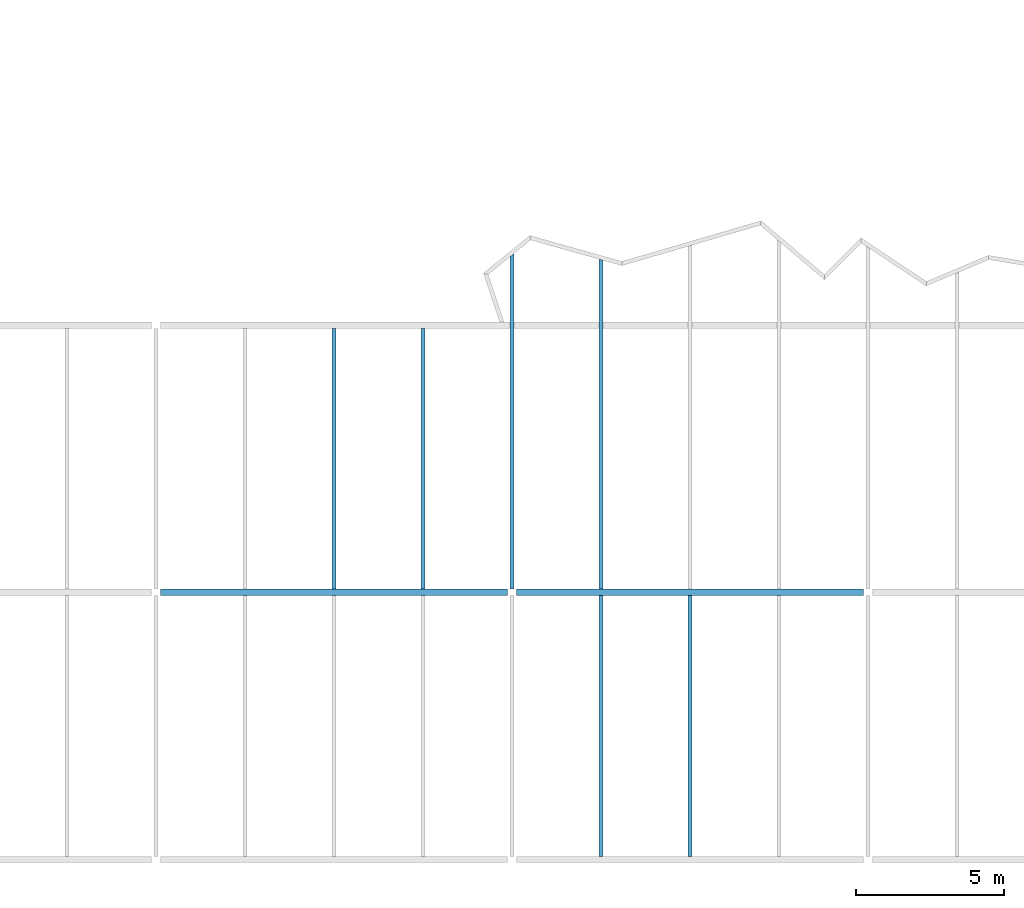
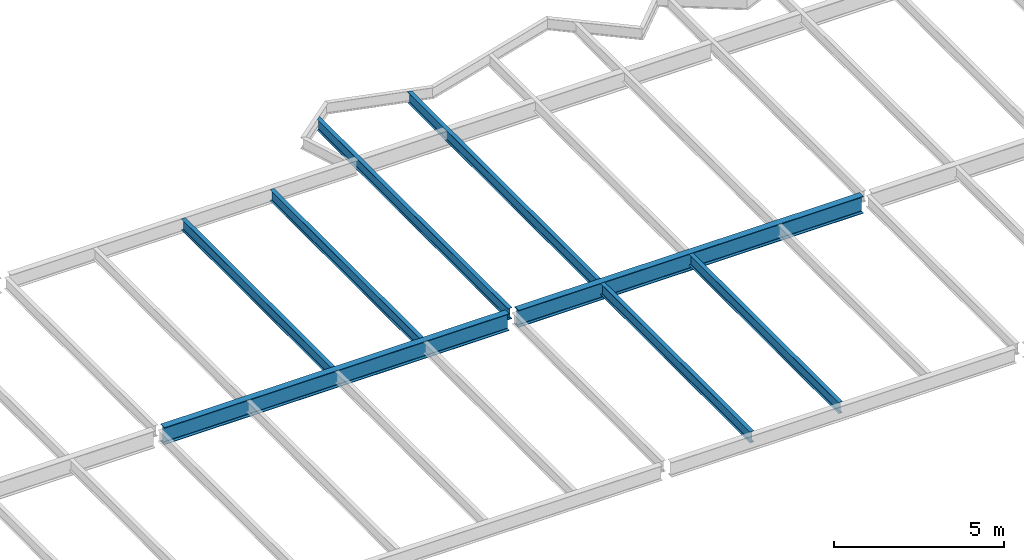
# One storey, part 18 of 23: 8 beams.
"""IFC2X3 building model written with IfcOpenShell, lengths in millimetres."""

import ifcopenshell
import ifcopenshell.guid

model = None  # the IFC model being written
_history = None  # IfcOwnerHistory: only IFC2X3 demands one
_inside = {}  # id of a spatial element -> (the spatial element, [elements in it])
_under = {}  # id of a project, library or spatial element -> (it, [spatial elements below it])
_declared = {}  # id of a project -> (the project, [libraries it declares])
_typed = {}  # id of a type object -> (the type object, [elements of that type])
_made_of = {}  # id of a material, layer set ... -> (it, [elements and type objects made of it])


def new_model(schema):
    """Start an empty IFC model of exactly this schema.

    Asked for "IFC4X3", IfcOpenShell would pick the latest addendum, in which some entities
    have other attributes; the version numbers below select the first issue.
    IFC2X3 requires an IfcOwnerHistory on every rooted entity: one is made here for all.
    """
    global model, _history
    if schema == "IFC4X3":
        model = ifcopenshell.file(schema_version=(4, 3, 0, 0))
    else:
        model = ifcopenshell.file(schema=schema)
    _inside.clear()
    _under.clear()
    _declared.clear()
    _typed.clear()
    _made_of.clear()
    _history = None
    if model.schema == "IFC2X3":
        org = make("IfcOrganization", Name="unknown")
        user = make(
            "IfcPersonAndOrganization",
            ThePerson=make("IfcPerson", FamilyName="unknown"),
            TheOrganization=org,
        )
        app = make(
            "IfcApplication",
            ApplicationDeveloper=org,
            Version="unknown",
            ApplicationFullName="unknown",
            ApplicationIdentifier="unknown",
        )
        _history = make(
            "IfcOwnerHistory",
            OwningUser=user,
            OwningApplication=app,
            ChangeAction="ADDED",
            CreationDate=0,
        )
    return model


def make(cls, **values):
    """One entity of the class cls with the attributes given. An attribute that is None is left unset."""
    return model.create_entity(
        cls, **{name: value for name, value in values.items() if value is not None}
    )


def rooted(cls, **values):
    """An entity with a GlobalId (a new one), such as an element, a storey or a relation."""
    return make(cls, GlobalId=ifcopenshell.guid.new(), OwnerHistory=_history, **values)


def si_unit(unit_type, name, prefix=None):
    """IfcSIUnit, for example si_unit("LENGTHUNIT", "METRE", prefix="MILLI")."""
    return make("IfcSIUnit", UnitType=unit_type, Prefix=prefix, Name=name)


def assignment(units):
    """IfcUnitAssignment: the units of a project."""
    return None if units is None else make("IfcUnitAssignment", Units=units)


def point(xyz):
    """IfcCartesianPoint."""
    return None if xyz is None else make("IfcCartesianPoint", Coordinates=xyz)


def direction(xyz):
    """IfcDirection."""
    return None if xyz is None else make("IfcDirection", DirectionRatios=xyz)


def frame(location, z_axis=None, x_axis=None):
    """IfcAxis2Placement3D, a coordinate frame: its origin and axes. An axis left out is left unset."""
    return make(
        "IfcAxis2Placement3D",
        Location=point(location),
        Axis=direction(z_axis),
        RefDirection=direction(x_axis),
    )


def origin():
    """The frame at (0, 0, 0) with its axes left unset."""
    return frame((0.0, 0.0, 0.0))


def place(relative_to, where):
    """IfcLocalPlacement: puts the frame where relative to a parent placement (None: the world)."""
    return make(
        "IfcLocalPlacement", PlacementRelTo=relative_to, RelativePlacement=where
    )


def context(
    kind, dimensions, precision=None, world=None, true_north=None, identifier=None
):
    """IfcGeometricRepresentationContext, for example the 3D "Model" context."""
    return make(
        "IfcGeometricRepresentationContext",
        ContextIdentifier=identifier,
        ContextType=kind,
        CoordinateSpaceDimension=dimensions,
        Precision=precision,
        WorldCoordinateSystem=world,
        TrueNorth=true_north,
    )


def project(units=None, contexts=None):
    """IfcProject with its units and contexts."""
    return rooted(
        "IfcProject",
        Name="project",
        RepresentationContexts=contexts,
        UnitsInContext=assignment(units),
    )


def spatial(cls, under=None, at=None, **own):
    """A site, building, storey or space (cls), placed at a placement, below another one or the project."""
    s = rooted(cls, ObjectPlacement=at, **own)
    if under is not None:
        _under.setdefault(under.id(), (under, []))[1].append(s)
    return s


def faces_of(points, faces, orient=None, outer=None):
    """IfcFace entities. A face is a list of loops; a loop is a list of indices into points, from 0.

    orient and outer hold one flag for each loop. By default every Orientation is true, the
    first loop of a face is its IfcFaceOuterBound and the others are IfcFaceBound.
    """
    made = []
    for i, loops in enumerate(faces):
        bounds = []
        for j, loop in enumerate(loops):
            is_outer = j == 0 if outer is None else outer[i][j]
            bounds.append(
                make(
                    "IfcFaceOuterBound" if is_outer else "IfcFaceBound",
                    Bound=make("IfcPolyLoop", Polygon=[points[k] for k in loop]),
                    Orientation=True if orient is None else orient[i][j],
                )
            )
        made.append(make("IfcFace", Bounds=bounds))
    return made


def faceted_brep(points, faces, orient=None, outer=None, voids=None):
    """IfcFacetedBrep: a solid bounded by flat faces; with voids (closed shells), ...WithVoids."""
    shared = [point(p) for p in points]
    hull = make("IfcClosedShell", CfsFaces=faces_of(shared, faces, orient, outer))
    if voids is None:
        return make("IfcFacetedBrep", Outer=hull)
    return make(
        "IfcFacetedBrepWithVoids",
        Outer=hull,
        Voids=[
            make(cls, CfsFaces=faces_of(shared, fs, o, b)) for cls, fs, o, b in voids
        ],
    )


def shape(context_of_items, identifier, shape_type, items):
    """IfcShapeRepresentation: the items that make up one representation, for example the "Body"."""
    return make(
        "IfcShapeRepresentation",
        ContextOfItems=context_of_items,
        RepresentationIdentifier=identifier,
        RepresentationType=shape_type,
        Items=items,
    )


def material(Name=None, Category=None):
    """IfcMaterial."""
    return make("IfcMaterial", Name=Name, Category=Category)


def made_of(thing, what):
    """Note that an element or type object is made of a material, layer set ...; save() writes the relation."""
    if what is not None:
        _made_of.setdefault(what.id(), (what, []))[1].append(thing)
    return thing


def element(
    cls,
    number,
    at=None,
    inside=None,
    cuts=None,
    type_object=None,
    material=None,
    context=None,
    identifier="Body",
    shape_type=None,
    held_by="IfcProductDefinitionShape",
    body=None,
    shapes=None,
    **own,
):
    """One element of the class cls, such as IfcWall. Its Tag is "e" and its number.

    at: its placement. inside: the storey or other place that contains it. cuts: it is an
    opening in that element (IfcRelVoidsElement). A single representation is given by context,
    identifier, shape_type and body (its items); several are given by shapes. held_by: the class
    of the entity that holds the representations. save() writes the other relations.
    """
    e = rooted(cls, Tag="e%d" % number, ObjectPlacement=at, **own)
    if body is not None:
        shapes = [shape(context, identifier, shape_type, body)]
    if shapes is not None:
        e.Representation = make(held_by, Representations=shapes)
    if inside is not None:
        _inside.setdefault(inside.id(), (inside, []))[1].append(e)
    if cuts is not None:
        rooted(
            "IfcRelVoidsElement", RelatingBuildingElement=cuts, RelatedOpeningElement=e
        )
    if type_object is not None:
        _typed.setdefault(type_object.id(), (type_object, []))[1].append(e)
    return made_of(e, material)


def aggregate(whole, parts):
    """IfcRelAggregates: a whole, such as a stair, and the parts it consists of."""
    return rooted("IfcRelAggregates", RelatingObject=whole, RelatedObjects=parts)


def save(model, path):
    """Write the relations noted so far, then the file.

    IfcRelAggregates (storeys below a building ...), IfcRelContainedInSpatialStructure (elements
    in a storey), IfcRelDefinesByType, IfcRelAssociatesMaterial and IfcRelDeclares: one each for
    every whole, place, type object, material and project.
    """
    for whole, parts in _under.values():
        aggregate(whole, parts)
    for where, things in _inside.values():
        rooted(
            "IfcRelContainedInSpatialStructure",
            RelatedElements=things,
            RelatingStructure=where,
        )
    for kind, things in _typed.values():
        rooted("IfcRelDefinesByType", RelatedObjects=things, RelatingType=kind)
    for what, things in _made_of.values():
        rooted("IfcRelAssociatesMaterial", RelatedObjects=things, RelatingMaterial=what)
    for by, libraries in _declared.values():
        rooted("IfcRelDeclares", RelatingContext=by, RelatedDefinitions=libraries)
    model.write(path)


model = new_model("IFC2X3")

# Units and contexts
context_of_model = context(None, 3, precision=1e-05, world=origin())
ifc_project = project(units=[si_unit("LENGTHUNIT", "METRE", prefix="MILLI")], contexts=[context_of_model])

# Building, storey
building = spatial("IfcBuilding", under=ifc_project, Name="Building", CompositionType="ELEMENT")
storey = spatial("IfcBuildingStorey", under=building, Name="FL5-FRM", CompositionType="ELEMENT")

# Beams
ifc_material_1 = material(Name="A992")
beam_1_placement = place(None, origin())
element("IfcBeam", 1, at=beam_1_placement, inside=storey, material=ifc_material_1, Name="B826", context=context_of_model, shape_type="Brep", body=[
    faceted_brep([(53930.0, 26895.5, 17474.0), (54070.0, 26895.5, 17474.0), (54070.0, 18114.5, 17474.0), (53930.0, 18114.5, 17474.0), (54070.0, 26895.5, 17482.8), (54070.0, 18114.5, 17482.8), (54013.4, 26895.5, 17482.8), (54013.4, 18114.5, 17482.8), (54010.8, 26895.5, 17483.1), (54010.8, 18114.5, 17483.1), (54008.3, 26895.5, 17484.2), (54008.3, 18114.5, 17484.2), (54006.2, 26895.5, 17485.8), (54006.2, 18114.5, 17485.8), (54004.6, 26895.5, 17487.9), (54004.6, 18114.5, 17487.9), (54003.5, 26895.5, 17490.4), (54003.5, 18114.5, 17490.4), (54003.2, 26895.5, 17493.0), (54003.2, 18114.5, 17493.0), (54003.2, 26895.5, 17854.0), (54003.2, 18114.5, 17854.0), (54003.5, 26895.5, 17856.6), (54003.5, 18114.5, 17856.6), (54004.6, 26895.5, 17859.1), (54004.6, 18114.5, 17859.1), (54006.2, 26895.5, 17861.2), (54006.2, 18114.5, 17861.2), (54008.3, 26895.5, 17862.8), (54008.3, 18114.5, 17862.8), (54010.8, 26895.5, 17863.9), (54010.8, 18114.5, 17863.9), (54013.4, 26895.5, 17864.2), (54013.4, 18114.5, 17864.2), (54070.0, 26895.5, 17864.2), (54070.0, 18114.5, 17864.2), (54070.0, 26895.5, 17873.0), (54070.0, 18114.5, 17873.0), (53930.0, 26895.5, 17873.0), (53930.0, 18114.5, 17873.0), (53930.0, 26895.5, 17864.2), (53930.0, 18114.5, 17864.2), (53986.6, 26895.5, 17864.2), (53986.6, 18114.5, 17864.2), (53989.2, 26895.5, 17863.9), (53989.2, 18114.5, 17863.9), (53991.7, 26895.5, 17862.8), (53991.7, 18114.5, 17862.8), (53993.8, 26895.5, 17861.2), (53993.8, 18114.5, 17861.2), (53995.4, 26895.5, 17859.1), (53995.4, 18114.5, 17859.1), (53996.5, 26895.5, 17856.6), (53996.5, 18114.5, 17856.6), (53996.8, 26895.5, 17854.0), (53996.8, 18114.5, 17854.0), (53996.8, 26895.5, 17493.0), (53996.8, 18114.5, 17493.0), (53996.5, 26895.5, 17490.4), (53996.5, 18114.5, 17490.4), (53995.4, 26895.5, 17487.9), (53995.4, 18114.5, 17487.9), (53993.8, 26895.5, 17485.8), (53993.8, 18114.5, 17485.8), (53991.7, 26895.5, 17484.2), (53991.7, 18114.5, 17484.2), (53989.2, 26895.5, 17483.1), (53989.2, 18114.5, 17483.1), (53986.6, 26895.5, 17482.8), (53986.6, 18114.5, 17482.8), (53930.0, 26895.5, 17482.8), (53930.0, 18114.5, 17482.8)], [[[0, 1, 2, 3]], [[1, 4, 5, 2]], [[4, 6, 7, 5]], [[6, 8, 9, 7]], [[8, 10, 11, 9]], [[10, 12, 13, 11]], [[12, 14, 15, 13]], [[14, 16, 17, 15]], [[16, 18, 19, 17]], [[18, 20, 21, 19]], [[20, 22, 23, 21]], [[22, 24, 25, 23]], [[24, 26, 27, 25]], [[26, 28, 29, 27]], [[28, 30, 31, 29]], [[30, 32, 33, 31]], [[32, 34, 35, 33]], [[34, 36, 37, 35]], [[36, 38, 39, 37]], [[38, 40, 41, 39]], [[40, 42, 43, 41]], [[42, 44, 45, 43]], [[44, 46, 47, 45]], [[46, 48, 49, 47]], [[48, 50, 51, 49]], [[50, 52, 53, 51]], [[52, 54, 55, 53]], [[54, 56, 57, 55]], [[56, 58, 59, 57]], [[58, 60, 61, 59]], [[60, 62, 63, 61]], [[62, 64, 65, 63]], [[64, 66, 67, 65]], [[66, 68, 69, 67]], [[68, 70, 71, 69]], [[70, 0, 3, 71]], [[0, 70, 68, 66, 64, 62, 60, 58, 56, 54, 52, 50, 48, 46, 44, 42, 40, 38, 36, 34, 32, 30, 28, 26, 24, 22, 20, 18, 16, 14, 12, 10, 8, 6, 4, 1]], [[3, 2, 5, 7, 9, 11, 13, 15, 17, 19, 21, 23, 25, 27, 29, 31, 33, 35, 37, 39, 41, 43, 45, 47, 49, 51, 53, 55, 57, 59, 61, 63, 65, 67, 69, 71]]]),
])
ifc_material_2 = material(Name="A992")
beam_2_placement = place(None, origin())
element("IfcBeam", 2, at=beam_2_placement, inside=storey, material=ifc_material_2, Name="B827", context=context_of_model, shape_type="Brep", body=[
    faceted_brep([(56930.0, 26895.5, 17474.0), (57070.0, 26895.5, 17474.0), (57070.0, 18114.5, 17474.0), (56930.0, 18114.5, 17474.0), (57070.0, 26895.5, 17482.8), (57070.0, 18114.5, 17482.8), (57013.4, 26895.5, 17482.8), (57013.4, 18114.5, 17482.8), (57010.8, 26895.5, 17483.1), (57010.8, 18114.5, 17483.1), (57008.3, 26895.5, 17484.2), (57008.3, 18114.5, 17484.2), (57006.2, 26895.5, 17485.8), (57006.2, 18114.5, 17485.8), (57004.6, 26895.5, 17487.9), (57004.6, 18114.5, 17487.9), (57003.5, 26895.5, 17490.4), (57003.5, 18114.5, 17490.4), (57003.2, 26895.5, 17493.0), (57003.2, 18114.5, 17493.0), (57003.2, 26895.5, 17854.0), (57003.2, 18114.5, 17854.0), (57003.5, 26895.5, 17856.6), (57003.5, 18114.5, 17856.6), (57004.6, 26895.5, 17859.1), (57004.6, 18114.5, 17859.1), (57006.2, 26895.5, 17861.2), (57006.2, 18114.5, 17861.2), (57008.3, 26895.5, 17862.8), (57008.3, 18114.5, 17862.8), (57010.8, 26895.5, 17863.9), (57010.8, 18114.5, 17863.9), (57013.4, 26895.5, 17864.2), (57013.4, 18114.5, 17864.2), (57070.0, 26895.5, 17864.2), (57070.0, 18114.5, 17864.2), (57070.0, 26895.5, 17873.0), (57070.0, 18114.5, 17873.0), (56930.0, 26895.5, 17873.0), (56930.0, 18114.5, 17873.0), (56930.0, 26895.5, 17864.2), (56930.0, 18114.5, 17864.2), (56986.6, 26895.5, 17864.2), (56986.6, 18114.5, 17864.2), (56989.2, 26895.5, 17863.9), (56989.2, 18114.5, 17863.9), (56991.7, 26895.5, 17862.8), (56991.7, 18114.5, 17862.8), (56993.8, 26895.5, 17861.2), (56993.8, 18114.5, 17861.2), (56995.4, 26895.5, 17859.1), (56995.4, 18114.5, 17859.1), (56996.5, 26895.5, 17856.6), (56996.5, 18114.5, 17856.6), (56996.8, 26895.5, 17854.0), (56996.8, 18114.5, 17854.0), (56996.8, 26895.5, 17493.0), (56996.8, 18114.5, 17493.0), (56996.5, 26895.5, 17490.4), (56996.5, 18114.5, 17490.4), (56995.4, 26895.5, 17487.9), (56995.4, 18114.5, 17487.9), (56993.8, 26895.5, 17485.8), (56993.8, 18114.5, 17485.8), (56991.7, 26895.5, 17484.2), (56991.7, 18114.5, 17484.2), (56989.2, 26895.5, 17483.1), (56989.2, 18114.5, 17483.1), (56986.6, 26895.5, 17482.8), (56986.6, 18114.5, 17482.8), (56930.0, 26895.5, 17482.8), (56930.0, 18114.5, 17482.8)], [[[0, 1, 2, 3]], [[1, 4, 5, 2]], [[4, 6, 7, 5]], [[6, 8, 9, 7]], [[8, 10, 11, 9]], [[10, 12, 13, 11]], [[12, 14, 15, 13]], [[14, 16, 17, 15]], [[16, 18, 19, 17]], [[18, 20, 21, 19]], [[20, 22, 23, 21]], [[22, 24, 25, 23]], [[24, 26, 27, 25]], [[26, 28, 29, 27]], [[28, 30, 31, 29]], [[30, 32, 33, 31]], [[32, 34, 35, 33]], [[34, 36, 37, 35]], [[36, 38, 39, 37]], [[38, 40, 41, 39]], [[40, 42, 43, 41]], [[42, 44, 45, 43]], [[44, 46, 47, 45]], [[46, 48, 49, 47]], [[48, 50, 51, 49]], [[50, 52, 53, 51]], [[52, 54, 55, 53]], [[54, 56, 57, 55]], [[56, 58, 59, 57]], [[58, 60, 61, 59]], [[60, 62, 63, 61]], [[62, 64, 65, 63]], [[64, 66, 67, 65]], [[66, 68, 69, 67]], [[68, 70, 71, 69]], [[70, 0, 3, 71]], [[0, 70, 68, 66, 64, 62, 60, 58, 56, 54, 52, 50, 48, 46, 44, 42, 40, 38, 36, 34, 32, 30, 28, 26, 24, 22, 20, 18, 16, 14, 12, 10, 8, 6, 4, 1]], [[3, 2, 5, 7, 9, 11, 13, 15, 17, 19, 21, 23, 25, 27, 29, 31, 33, 35, 37, 39, 41, 43, 45, 47, 49, 51, 53, 55, 57, 59, 61, 63, 65, 67, 69, 71]]]),
])
ifc_material_3 = material(Name="A992")
beam_3_placement = place(None, origin())
element("IfcBeam", 3, at=beam_3_placement, inside=storey, material=ifc_material_3, Name="Column591", context=context_of_model, shape_type="Brep", body=[
    faceted_brep([(48157.0, 17885.5, 17261.0), (48157.0, 18114.5, 17261.0), (59843.0, 18114.5, 17261.0), (59843.0, 17885.5, 17261.0), (48157.0, 18114.5, 17280.6), (59843.0, 18114.5, 17280.6), (48157.0, 18018.6, 17280.6), (59843.0, 18018.6, 17280.6), (48157.0, 18015.4, 17281.0), (59843.0, 18015.4, 17281.0), (48157.0, 18012.3, 17282.3), (59843.0, 18012.3, 17282.3), (48157.0, 18009.7, 17284.3), (59843.0, 18009.7, 17284.3), (48157.0, 18007.7, 17287.0), (59843.0, 18007.7, 17287.0), (48157.0, 18006.4, 17290.0), (59843.0, 18006.4, 17290.0), (48157.0, 18005.9, 17293.3), (59843.0, 18005.9, 17293.3), (48157.0, 18005.9, 17840.7), (59843.0, 18005.9, 17840.7), (48157.0, 18006.4, 17844.0), (59843.0, 18006.4, 17844.0), (48157.0, 18007.7, 17847.0), (59843.0, 18007.7, 17847.0), (48157.0, 18009.7, 17849.7), (59843.0, 18009.7, 17849.7), (48157.0, 18012.3, 17851.7), (59843.0, 18012.3, 17851.7), (48157.0, 18015.4, 17853.0), (59843.0, 18015.4, 17853.0), (48157.0, 18018.6, 17853.4), (59843.0, 18018.6, 17853.4), (48157.0, 18114.5, 17853.4), (59843.0, 18114.5, 17853.4), (48157.0, 18114.5, 17873.0), (59843.0, 18114.5, 17873.0), (48157.0, 17885.5, 17873.0), (59843.0, 17885.5, 17873.0), (48157.0, 17885.5, 17853.4), (59843.0, 17885.5, 17853.4), (48157.0, 17981.4, 17853.4), (59843.0, 17981.4, 17853.4), (48157.0, 17984.6, 17853.0), (59843.0, 17984.6, 17853.0), (48157.0, 17987.7, 17851.7), (59843.0, 17987.7, 17851.7), (48157.0, 17990.3, 17849.7), (59843.0, 17990.3, 17849.7), (48157.0, 17992.3, 17847.0), (59843.0, 17992.3, 17847.0), (48157.0, 17993.6, 17844.0), (59843.0, 17993.6, 17844.0), (48157.0, 17994.1, 17840.7), (59843.0, 17994.1, 17840.7), (48157.0, 17994.1, 17293.3), (59843.0, 17994.1, 17293.3), (48157.0, 17993.6, 17290.0), (59843.0, 17993.6, 17290.0), (48157.0, 17992.3, 17287.0), (59843.0, 17992.3, 17287.0), (48157.0, 17990.3, 17284.3), (59843.0, 17990.3, 17284.3), (48157.0, 17987.7, 17282.3), (59843.0, 17987.7, 17282.3), (48157.0, 17984.6, 17281.0), (59843.0, 17984.6, 17281.0), (48157.0, 17981.4, 17280.6), (59843.0, 17981.4, 17280.6), (48157.0, 17885.5, 17280.6), (59843.0, 17885.5, 17280.6)], [[[0, 1, 2, 3]], [[1, 4, 5, 2]], [[4, 6, 7, 5]], [[6, 8, 9, 7]], [[8, 10, 11, 9]], [[10, 12, 13, 11]], [[12, 14, 15, 13]], [[14, 16, 17, 15]], [[16, 18, 19, 17]], [[18, 20, 21, 19]], [[20, 22, 23, 21]], [[22, 24, 25, 23]], [[24, 26, 27, 25]], [[26, 28, 29, 27]], [[28, 30, 31, 29]], [[30, 32, 33, 31]], [[32, 34, 35, 33]], [[34, 36, 37, 35]], [[36, 38, 39, 37]], [[38, 40, 41, 39]], [[40, 42, 43, 41]], [[42, 44, 45, 43]], [[44, 46, 47, 45]], [[46, 48, 49, 47]], [[48, 50, 51, 49]], [[50, 52, 53, 51]], [[52, 54, 55, 53]], [[54, 56, 57, 55]], [[56, 58, 59, 57]], [[58, 60, 61, 59]], [[60, 62, 63, 61]], [[62, 64, 65, 63]], [[64, 66, 67, 65]], [[66, 68, 69, 67]], [[68, 70, 71, 69]], [[70, 0, 3, 71]], [[0, 70, 68, 66, 64, 62, 60, 58, 56, 54, 52, 50, 48, 46, 44, 42, 40, 38, 36, 34, 32, 30, 28, 26, 24, 22, 20, 18, 16, 14, 12, 10, 8, 6, 4, 1]], [[3, 2, 5, 7, 9, 11, 13, 15, 17, 19, 21, 23, 25, 27, 29, 31, 33, 35, 37, 39, 41, 43, 45, 47, 49, 51, 53, 55, 57, 59, 61, 63, 65, 67, 69, 71]]]),
])
ifc_material_4 = material(Name="A992")
beam_4_placement = place(None, origin())
element("IfcBeam", 4, at=beam_4_placement, inside=storey, material=ifc_material_4, Name="B837", context=context_of_model, shape_type="Brep", body=[
    faceted_brep([(63070.0, 9104.5, 17474.0), (62930.0, 9104.5, 17474.0), (62930.0, 17885.5, 17474.0), (63070.0, 17885.5, 17474.0), (62930.0, 9104.5, 17482.8), (62930.0, 17885.5, 17482.8), (62986.6, 9104.5, 17482.8), (62986.6, 17885.5, 17482.8), (62989.2, 9104.5, 17483.1), (62989.2, 17885.5, 17483.1), (62991.7, 9104.5, 17484.2), (62991.7, 17885.5, 17484.2), (62993.8, 9104.5, 17485.8), (62993.8, 17885.5, 17485.8), (62995.4, 9104.5, 17487.9), (62995.4, 17885.5, 17487.9), (62996.5, 9104.5, 17490.4), (62996.5, 17885.5, 17490.4), (62996.8, 9104.5, 17493.0), (62996.8, 17885.5, 17493.0), (62996.8, 9104.5, 17854.0), (62996.8, 17885.5, 17854.0), (62996.5, 9104.5, 17856.6), (62996.5, 17885.5, 17856.6), (62995.4, 9104.5, 17859.1), (62995.4, 17885.5, 17859.1), (62993.8, 9104.5, 17861.2), (62993.8, 17885.5, 17861.2), (62991.7, 9104.5, 17862.8), (62991.7, 17885.5, 17862.8), (62989.2, 9104.5, 17863.9), (62989.2, 17885.5, 17863.9), (62986.6, 9104.5, 17864.2), (62986.6, 17885.5, 17864.2), (62930.0, 9104.5, 17864.2), (62930.0, 17885.5, 17864.2), (62930.0, 9104.5, 17873.0), (62930.0, 17885.5, 17873.0), (63070.0, 9104.5, 17873.0), (63070.0, 17885.5, 17873.0), (63070.0, 9104.5, 17864.2), (63070.0, 17885.5, 17864.2), (63013.4, 9104.5, 17864.2), (63013.4, 17885.5, 17864.2), (63010.8, 9104.5, 17863.9), (63010.8, 17885.5, 17863.9), (63008.3, 9104.5, 17862.8), (63008.3, 17885.5, 17862.8), (63006.2, 9104.5, 17861.2), (63006.2, 17885.5, 17861.2), (63004.6, 9104.5, 17859.1), (63004.6, 17885.5, 17859.1), (63003.5, 9104.5, 17856.6), (63003.5, 17885.5, 17856.6), (63003.2, 9104.5, 17854.0), (63003.2, 17885.5, 17854.0), (63003.2, 9104.5, 17493.0), (63003.2, 17885.5, 17493.0), (63003.5, 9104.5, 17490.4), (63003.5, 17885.5, 17490.4), (63004.6, 9104.5, 17487.9), (63004.6, 17885.5, 17487.9), (63006.2, 9104.5, 17485.8), (63006.2, 17885.5, 17485.8), (63008.3, 9104.5, 17484.2), (63008.3, 17885.5, 17484.2), (63010.8, 9104.5, 17483.1), (63010.8, 17885.5, 17483.1), (63013.4, 9104.5, 17482.8), (63013.4, 17885.5, 17482.8), (63070.0, 9104.5, 17482.8), (63070.0, 17885.5, 17482.8)], [[[0, 1, 2, 3]], [[1, 4, 5, 2]], [[4, 6, 7, 5]], [[6, 8, 9, 7]], [[8, 10, 11, 9]], [[10, 12, 13, 11]], [[12, 14, 15, 13]], [[14, 16, 17, 15]], [[16, 18, 19, 17]], [[18, 20, 21, 19]], [[20, 22, 23, 21]], [[22, 24, 25, 23]], [[24, 26, 27, 25]], [[26, 28, 29, 27]], [[28, 30, 31, 29]], [[30, 32, 33, 31]], [[32, 34, 35, 33]], [[34, 36, 37, 35]], [[36, 38, 39, 37]], [[38, 40, 41, 39]], [[40, 42, 43, 41]], [[42, 44, 45, 43]], [[44, 46, 47, 45]], [[46, 48, 49, 47]], [[48, 50, 51, 49]], [[50, 52, 53, 51]], [[52, 54, 55, 53]], [[54, 56, 57, 55]], [[56, 58, 59, 57]], [[58, 60, 61, 59]], [[60, 62, 63, 61]], [[62, 64, 65, 63]], [[64, 66, 67, 65]], [[66, 68, 69, 67]], [[68, 70, 71, 69]], [[70, 0, 3, 71]], [[0, 70, 68, 66, 64, 62, 60, 58, 56, 54, 52, 50, 48, 46, 44, 42, 40, 38, 36, 34, 32, 30, 28, 26, 24, 22, 20, 18, 16, 14, 12, 10, 8, 6, 4, 1]], [[3, 2, 5, 7, 9, 11, 13, 15, 17, 19, 21, 23, 25, 27, 29, 31, 33, 35, 37, 39, 41, 43, 45, 47, 49, 51, 53, 55, 57, 59, 61, 63, 65, 67, 69, 71]]]),
])
ifc_material_5 = material(Name="A992")
beam_5_placement = place(None, origin())
element("IfcBeam", 5, at=beam_5_placement, inside=storey, material=ifc_material_5, Name="B838", context=context_of_model, shape_type="Brep", body=[
    faceted_brep([(66070.0, 9104.5, 17474.0), (65930.0, 9104.5, 17474.0), (65930.0, 17885.5, 17474.0), (66070.0, 17885.5, 17474.0), (65930.0, 9104.5, 17482.8), (65930.0, 17885.5, 17482.8), (65986.6, 9104.5, 17482.8), (65986.6, 17885.5, 17482.8), (65989.2, 9104.5, 17483.1), (65989.2, 17885.5, 17483.1), (65991.7, 9104.5, 17484.2), (65991.7, 17885.5, 17484.2), (65993.8, 9104.5, 17485.8), (65993.8, 17885.5, 17485.8), (65995.4, 9104.5, 17487.9), (65995.4, 17885.5, 17487.9), (65996.5, 9104.5, 17490.4), (65996.5, 17885.5, 17490.4), (65996.8, 9104.5, 17493.0), (65996.8, 17885.5, 17493.0), (65996.8, 9104.5, 17854.0), (65996.8, 17885.5, 17854.0), (65996.5, 9104.5, 17856.6), (65996.5, 17885.5, 17856.6), (65995.4, 9104.5, 17859.1), (65995.4, 17885.5, 17859.1), (65993.8, 9104.5, 17861.2), (65993.8, 17885.5, 17861.2), (65991.7, 9104.5, 17862.8), (65991.7, 17885.5, 17862.8), (65989.2, 9104.5, 17863.9), (65989.2, 17885.5, 17863.9), (65986.6, 9104.5, 17864.2), (65986.6, 17885.5, 17864.2), (65930.0, 9104.5, 17864.2), (65930.0, 17885.5, 17864.2), (65930.0, 9104.5, 17873.0), (65930.0, 17885.5, 17873.0), (66070.0, 9104.5, 17873.0), (66070.0, 17885.5, 17873.0), (66070.0, 9104.5, 17864.2), (66070.0, 17885.5, 17864.2), (66013.4, 9104.5, 17864.2), (66013.4, 17885.5, 17864.2), (66010.8, 9104.5, 17863.9), (66010.8, 17885.5, 17863.9), (66008.3, 9104.5, 17862.8), (66008.3, 17885.5, 17862.8), (66006.2, 9104.5, 17861.2), (66006.2, 17885.5, 17861.2), (66004.6, 9104.5, 17859.1), (66004.6, 17885.5, 17859.1), (66003.5, 9104.5, 17856.6), (66003.5, 17885.5, 17856.6), (66003.2, 9104.5, 17854.0), (66003.2, 17885.5, 17854.0), (66003.2, 9104.5, 17493.0), (66003.2, 17885.5, 17493.0), (66003.5, 9104.5, 17490.4), (66003.5, 17885.5, 17490.4), (66004.6, 9104.5, 17487.9), (66004.6, 17885.5, 17487.9), (66006.2, 9104.5, 17485.8), (66006.2, 17885.5, 17485.8), (66008.3, 9104.5, 17484.2), (66008.3, 17885.5, 17484.2), (66010.8, 9104.5, 17483.1), (66010.8, 17885.5, 17483.1), (66013.4, 9104.5, 17482.8), (66013.4, 17885.5, 17482.8), (66070.0, 9104.5, 17482.8), (66070.0, 17885.5, 17482.8)], [[[0, 1, 2, 3]], [[1, 4, 5, 2]], [[4, 6, 7, 5]], [[6, 8, 9, 7]], [[8, 10, 11, 9]], [[10, 12, 13, 11]], [[12, 14, 15, 13]], [[14, 16, 17, 15]], [[16, 18, 19, 17]], [[18, 20, 21, 19]], [[20, 22, 23, 21]], [[22, 24, 25, 23]], [[24, 26, 27, 25]], [[26, 28, 29, 27]], [[28, 30, 31, 29]], [[30, 32, 33, 31]], [[32, 34, 35, 33]], [[34, 36, 37, 35]], [[36, 38, 39, 37]], [[38, 40, 41, 39]], [[40, 42, 43, 41]], [[42, 44, 45, 43]], [[44, 46, 47, 45]], [[46, 48, 49, 47]], [[48, 50, 51, 49]], [[50, 52, 53, 51]], [[52, 54, 55, 53]], [[54, 56, 57, 55]], [[56, 58, 59, 57]], [[58, 60, 61, 59]], [[60, 62, 63, 61]], [[62, 64, 65, 63]], [[64, 66, 67, 65]], [[66, 68, 69, 67]], [[68, 70, 71, 69]], [[70, 0, 3, 71]], [[0, 70, 68, 66, 64, 62, 60, 58, 56, 54, 52, 50, 48, 46, 44, 42, 40, 38, 36, 34, 32, 30, 28, 26, 24, 22, 20, 18, 16, 14, 12, 10, 8, 6, 4, 1]], [[3, 2, 5, 7, 9, 11, 13, 15, 17, 19, 21, 23, 25, 27, 29, 31, 33, 35, 37, 39, 41, 43, 45, 47, 49, 51, 53, 55, 57, 59, 61, 63, 65, 67, 69, 71]]]),
])
ifc_material_6 = material(Name="A992")
beam_6_placement = place(None, origin())
element("IfcBeam", 6, at=beam_6_placement, inside=storey, material=ifc_material_6, Name="Column594", context=context_of_model, shape_type="Brep", body=[
    faceted_brep([(60157.0, 17885.5, 17261.0), (60157.0, 18114.5, 17261.0), (71843.0, 18114.5, 17261.0), (71843.0, 17885.5, 17261.0), (60157.0, 18114.5, 17280.6), (71843.0, 18114.5, 17280.6), (60157.0, 18018.6, 17280.6), (71843.0, 18018.6, 17280.6), (60157.0, 18015.4, 17281.0), (71843.0, 18015.4, 17281.0), (60157.0, 18012.3, 17282.3), (71843.0, 18012.3, 17282.3), (60157.0, 18009.7, 17284.3), (71843.0, 18009.7, 17284.3), (60157.0, 18007.7, 17287.0), (71843.0, 18007.7, 17287.0), (60157.0, 18006.4, 17290.0), (71843.0, 18006.4, 17290.0), (60157.0, 18005.9, 17293.3), (71843.0, 18005.9, 17293.3), (60157.0, 18005.9, 17840.7), (71843.0, 18005.9, 17840.7), (60157.0, 18006.4, 17844.0), (71843.0, 18006.4, 17844.0), (60157.0, 18007.7, 17847.0), (71843.0, 18007.7, 17847.0), (60157.0, 18009.7, 17849.7), (71843.0, 18009.7, 17849.7), (60157.0, 18012.3, 17851.7), (71843.0, 18012.3, 17851.7), (60157.0, 18015.4, 17853.0), (71843.0, 18015.4, 17853.0), (60157.0, 18018.6, 17853.4), (71843.0, 18018.6, 17853.4), (60157.0, 18114.5, 17853.4), (71843.0, 18114.5, 17853.4), (60157.0, 18114.5, 17873.0), (71843.0, 18114.5, 17873.0), (60157.0, 17885.5, 17873.0), (71843.0, 17885.5, 17873.0), (60157.0, 17885.5, 17853.4), (71843.0, 17885.5, 17853.4), (60157.0, 17981.4, 17853.4), (71843.0, 17981.4, 17853.4), (60157.0, 17984.6, 17853.0), (71843.0, 17984.6, 17853.0), (60157.0, 17987.7, 17851.7), (71843.0, 17987.7, 17851.7), (60157.0, 17990.3, 17849.7), (71843.0, 17990.3, 17849.7), (60157.0, 17992.3, 17847.0), (71843.0, 17992.3, 17847.0), (60157.0, 17993.6, 17844.0), (71843.0, 17993.6, 17844.0), (60157.0, 17994.1, 17840.7), (71843.0, 17994.1, 17840.7), (60157.0, 17994.1, 17293.3), (71843.0, 17994.1, 17293.3), (60157.0, 17993.6, 17290.0), (71843.0, 17993.6, 17290.0), (60157.0, 17992.3, 17287.0), (71843.0, 17992.3, 17287.0), (60157.0, 17990.3, 17284.3), (71843.0, 17990.3, 17284.3), (60157.0, 17987.7, 17282.3), (71843.0, 17987.7, 17282.3), (60157.0, 17984.6, 17281.0), (71843.0, 17984.6, 17281.0), (60157.0, 17981.4, 17280.6), (71843.0, 17981.4, 17280.6), (60157.0, 17885.5, 17280.6), (71843.0, 17885.5, 17280.6)], [[[0, 1, 2, 3]], [[1, 4, 5, 2]], [[4, 6, 7, 5]], [[6, 8, 9, 7]], [[8, 10, 11, 9]], [[10, 12, 13, 11]], [[12, 14, 15, 13]], [[14, 16, 17, 15]], [[16, 18, 19, 17]], [[18, 20, 21, 19]], [[20, 22, 23, 21]], [[22, 24, 25, 23]], [[24, 26, 27, 25]], [[26, 28, 29, 27]], [[28, 30, 31, 29]], [[30, 32, 33, 31]], [[32, 34, 35, 33]], [[34, 36, 37, 35]], [[36, 38, 39, 37]], [[38, 40, 41, 39]], [[40, 42, 43, 41]], [[42, 44, 45, 43]], [[44, 46, 47, 45]], [[46, 48, 49, 47]], [[48, 50, 51, 49]], [[50, 52, 53, 51]], [[52, 54, 55, 53]], [[54, 56, 57, 55]], [[56, 58, 59, 57]], [[58, 60, 61, 59]], [[60, 62, 63, 61]], [[62, 64, 65, 63]], [[64, 66, 67, 65]], [[66, 68, 69, 67]], [[68, 70, 71, 69]], [[70, 0, 3, 71]], [[0, 70, 68, 66, 64, 62, 60, 58, 56, 54, 52, 50, 48, 46, 44, 42, 40, 38, 36, 34, 32, 30, 28, 26, 24, 22, 20, 18, 16, 14, 12, 10, 8, 6, 4, 1]], [[3, 2, 5, 7, 9, 11, 13, 15, 17, 19, 21, 23, 25, 27, 29, 31, 33, 35, 37, 39, 41, 43, 45, 47, 49, 51, 53, 55, 57, 59, 61, 63, 65, 67, 69, 71]]]),
])
ifc_material_7 = material(Name="A992")
beam_7_placement = place(None, origin())
element("IfcBeam", 7, at=beam_7_placement, inside=storey, material=ifc_material_7, Name="B951", context=context_of_model, shape_type="Brep", body=[
    faceted_brep([(62930.0, 29224.4, 17474.0), (63070.0, 29185.1, 17474.0), (63070.0, 18114.5, 17474.0), (62930.0, 18114.5, 17474.0), (63070.0, 29185.1, 17482.8), (63070.0, 18114.5, 17482.8), (63013.4, 29201.0, 17482.8), (63013.4, 18114.5, 17482.8), (63012.0, 29201.4, 17482.9), (63011.9, 18114.5, 17482.9), (63010.5, 29201.8, 17483.2), (63010.5, 18114.5, 17483.2), (63009.2, 29202.2, 17483.7), (63009.2, 18114.5, 17483.7), (63007.9, 29202.5, 17484.4), (63007.9, 18114.5, 17484.4), (63006.7, 29202.9, 17485.3), (63006.7, 18114.5, 17485.3), (63005.7, 29203.2, 17486.3), (63005.7, 18114.5, 17486.3), (63004.8, 29203.4, 17487.5), (63004.8, 18114.5, 17487.5), (63004.1, 29203.6, 17488.8), (63004.1, 18114.5, 17488.8), (63003.6, 29203.7, 17490.1), (63003.6, 18114.5, 17490.1), (63003.3, 29203.8, 17491.5), (63003.3, 18114.5, 17491.5), (63003.2, 29203.9, 17493.0), (63003.2, 18114.5, 17493.0), (63003.2, 29203.9, 17854.0), (63003.2, 18114.5, 17854.0), (63003.3, 29203.8, 17855.5), (63003.3, 18114.5, 17855.5), (63003.6, 29203.7, 17856.9), (63003.6, 18114.5, 17856.9), (63004.1, 29203.6, 17858.2), (63004.1, 18114.5, 17858.2), (63004.8, 29203.4, 17859.5), (63004.8, 18114.5, 17859.5), (63005.7, 29203.2, 17860.7), (63005.7, 18114.5, 17860.7), (63006.7, 29202.9, 17861.7), (63006.7, 18114.5, 17861.7), (63007.9, 29202.5, 17862.6), (63007.9, 18114.5, 17862.6), (63009.2, 29202.2, 17863.3), (63009.2, 18114.5, 17863.3), (63010.5, 29201.8, 17863.8), (63010.5, 18114.5, 17863.8), (63012.0, 29201.4, 17864.1), (63011.9, 18114.5, 17864.1), (63013.4, 29201.0, 17864.2), (63013.4, 18114.5, 17864.2), (63070.0, 29185.1, 17864.2), (63070.0, 18114.5, 17864.2), (63070.0, 29185.1, 17873.0), (63070.0, 18114.5, 17873.0), (62930.0, 29224.4, 17873.0), (62930.0, 18114.5, 17873.0), (62930.0, 29224.4, 17864.2), (62930.0, 18114.5, 17864.2), (62986.6, 29208.5, 17864.2), (62986.6, 18114.5, 17864.2), (62988.0, 29208.1, 17864.1), (62988.1, 18114.5, 17864.1), (62989.5, 29207.7, 17863.8), (62989.5, 18114.5, 17863.8), (62990.8, 29207.3, 17863.3), (62990.8, 18114.5, 17863.3), (62992.1, 29207.0, 17862.6), (62992.1, 18114.5, 17862.6), (62993.3, 29206.7, 17861.7), (62993.3, 18114.5, 17861.7), (62994.3, 29206.4, 17860.7), (62994.3, 18114.5, 17860.7), (62995.2, 29206.1, 17859.5), (62995.2, 18114.5, 17859.5), (62995.9, 29205.9, 17858.2), (62995.9, 18114.5, 17858.2), (62996.4, 29205.8, 17856.9), (62996.4, 18114.5, 17856.9), (62996.7, 29205.7, 17855.5), (62996.7, 18114.5, 17855.5), (62996.8, 29205.7, 17854.0), (62996.8, 18114.5, 17854.0), (62996.8, 29205.7, 17493.0), (62996.8, 18114.5, 17493.0), (62996.7, 29205.7, 17491.5), (62996.7, 18114.5, 17491.5), (62996.4, 29205.8, 17490.1), (62996.4, 18114.5, 17490.1), (62995.9, 29205.9, 17488.8), (62995.9, 18114.5, 17488.8), (62995.2, 29206.1, 17487.5), (62995.2, 18114.5, 17487.5), (62994.3, 29206.4, 17486.3), (62994.3, 18114.5, 17486.3), (62993.3, 29206.7, 17485.3), (62993.3, 18114.5, 17485.3), (62992.1, 29207.0, 17484.4), (62992.1, 18114.5, 17484.4), (62990.8, 29207.3, 17483.7), (62990.8, 18114.5, 17483.7), (62989.5, 29207.7, 17483.2), (62989.5, 18114.5, 17483.2), (62988.0, 29208.1, 17482.9), (62988.1, 18114.5, 17482.9), (62986.6, 29208.5, 17482.8), (62986.6, 18114.5, 17482.8), (62930.0, 29224.4, 17482.8), (62930.0, 18114.5, 17482.8)], [[[0, 1, 2, 3]], [[1, 4, 5, 2]], [[4, 6, 7, 5]], [[6, 8, 9, 7]], [[8, 10, 11, 9]], [[10, 12, 13, 11]], [[12, 14, 15, 13]], [[14, 16, 17, 15]], [[16, 18, 19, 17]], [[18, 20, 21, 19]], [[20, 22, 23, 21]], [[22, 24, 25, 23]], [[24, 26, 27, 25]], [[26, 28, 29, 27]], [[28, 30, 31, 29]], [[30, 32, 33, 31]], [[32, 34, 35, 33]], [[34, 36, 37, 35]], [[36, 38, 39, 37]], [[38, 40, 41, 39]], [[40, 42, 43, 41]], [[42, 44, 45, 43]], [[44, 46, 47, 45]], [[46, 48, 49, 47]], [[48, 50, 51, 49]], [[50, 52, 53, 51]], [[52, 54, 55, 53]], [[54, 56, 57, 55]], [[56, 58, 59, 57]], [[58, 60, 61, 59]], [[60, 62, 63, 61]], [[62, 64, 65, 63]], [[64, 66, 67, 65]], [[66, 68, 69, 67]], [[68, 70, 71, 69]], [[70, 72, 73, 71]], [[72, 74, 75, 73]], [[74, 76, 77, 75]], [[76, 78, 79, 77]], [[78, 80, 81, 79]], [[80, 82, 83, 81]], [[82, 84, 85, 83]], [[84, 86, 87, 85]], [[86, 88, 89, 87]], [[88, 90, 91, 89]], [[90, 92, 93, 91]], [[92, 94, 95, 93]], [[94, 96, 97, 95]], [[96, 98, 99, 97]], [[98, 100, 101, 99]], [[100, 102, 103, 101]], [[102, 104, 105, 103]], [[104, 106, 107, 105]], [[106, 108, 109, 107]], [[108, 110, 111, 109]], [[110, 0, 3, 111]], [[0, 110, 108, 106, 104, 102, 100, 98, 96, 94, 92, 90, 88, 86, 84, 82, 80, 78, 76, 74, 72, 70, 68, 66, 64, 62, 60, 58, 56, 54, 52, 50, 48, 46, 44, 42, 40, 38, 36, 34, 32, 30, 28, 26, 24, 22, 20, 18, 16, 14, 12, 10, 8, 6, 4, 1]], [[3, 2, 5, 7, 9, 11, 13, 15, 17, 19, 21, 23, 25, 27, 29, 31, 33, 35, 37, 39, 41, 43, 45, 47, 49, 51, 53, 55, 57, 59, 61, 63, 65, 67, 69, 71, 73, 75, 77, 79, 81, 83, 85, 87, 89, 91, 93, 95, 97, 99, 101, 103, 105, 107, 109, 111]]]),
])
ifc_material_8 = material(Name="A992")
beam_8_placement = place(None, origin())
element("IfcBeam", 8, at=beam_8_placement, inside=storey, material=ifc_material_8, Name="B955", context=context_of_model, shape_type="Brep", body=[
    faceted_brep([(60070.0, 18114.5, 17474.0), (59930.0, 18114.5, 17474.0), (59930.0, 29301.5, 17474.0), (60070.0, 29415.4, 17474.0), (59930.0, 18114.5, 17482.8), (59930.0, 29301.5, 17482.8), (59986.6, 18114.5, 17482.8), (59986.6, 29347.5, 17482.8), (59988.2, 18114.5, 17482.9), (59988.2, 29348.8, 17482.9), (59989.8, 18114.5, 17483.3), (59989.7, 29350.1, 17483.3), (59991.2, 18114.5, 17483.9), (59991.2, 29351.3, 17483.9), (59992.6, 18114.5, 17484.7), (59992.6, 29352.4, 17484.7), (59993.8, 18114.5, 17485.8), (59993.8, 29353.4, 17485.8), (59994.9, 18114.5, 17487.0), (59994.8, 29354.2, 17487.0), (59995.7, 18114.5, 17488.4), (59995.7, 29354.9, 17488.3), (59996.3, 18114.5, 17489.8), (59996.3, 29355.4, 17489.8), (59996.7, 18114.5, 17491.4), (59996.7, 29355.7, 17491.4), (59996.8, 18114.5, 17493.0), (59996.8, 29355.8, 17493.0), (59996.8, 18114.5, 17854.0), (59996.8, 29355.8, 17854.0), (59996.7, 18114.5, 17855.6), (59996.7, 29355.7, 17855.6), (59996.3, 18114.5, 17857.2), (59996.3, 29355.4, 17857.2), (59995.7, 18114.5, 17858.6), (59995.7, 29354.9, 17858.7), (59994.9, 18114.5, 17860.0), (59994.8, 29354.2, 17860.0), (59993.8, 18114.5, 17861.2), (59993.8, 29353.4, 17861.2), (59992.6, 18114.5, 17862.3), (59992.6, 29352.4, 17862.3), (59991.2, 18114.5, 17863.1), (59991.2, 29351.3, 17863.1), (59989.8, 18114.5, 17863.7), (59989.7, 29350.1, 17863.7), (59988.2, 18114.5, 17864.1), (59988.2, 29348.8, 17864.1), (59986.6, 18114.5, 17864.2), (59986.6, 29347.5, 17864.2), (59930.0, 18114.5, 17864.2), (59930.0, 29301.5, 17864.2), (59930.0, 18114.5, 17873.0), (59930.0, 29301.5, 17873.0), (60070.0, 18114.5, 17873.0), (60070.0, 29415.4, 17873.0), (60070.0, 18114.5, 17864.2), (60070.0, 29415.4, 17864.2), (60013.4, 18114.5, 17864.2), (60013.4, 29369.3, 17864.2), (60011.8, 18114.5, 17864.1), (60011.8, 29368.0, 17864.1), (60010.2, 18114.5, 17863.7), (60010.3, 29366.8, 17863.7), (60008.8, 18114.5, 17863.1), (60008.8, 29365.6, 17863.1), (60007.4, 18114.5, 17862.3), (60007.4, 29364.5, 17862.3), (60006.2, 18114.5, 17861.2), (60006.2, 29363.4, 17861.2), (60005.1, 18114.5, 17860.0), (60005.2, 29362.6, 17860.0), (60004.3, 18114.5, 17858.6), (60004.3, 29361.9, 17858.7), (60003.7, 18114.5, 17857.2), (60003.7, 29361.4, 17857.2), (60003.3, 18114.5, 17855.6), (60003.3, 29361.1, 17855.6), (60003.2, 18114.5, 17854.0), (60003.2, 29361.0, 17854.0), (60003.2, 18114.5, 17493.0), (60003.2, 29361.0, 17493.0), (60003.3, 18114.5, 17491.4), (60003.3, 29361.1, 17491.4), (60003.7, 18114.5, 17489.8), (60003.7, 29361.4, 17489.8), (60004.3, 18114.5, 17488.4), (60004.3, 29361.9, 17488.3), (60005.1, 18114.5, 17487.0), (60005.2, 29362.6, 17487.0), (60006.2, 18114.5, 17485.8), (60006.2, 29363.4, 17485.8), (60007.4, 18114.5, 17484.7), (60007.4, 29364.5, 17484.7), (60008.8, 18114.5, 17483.9), (60008.8, 29365.6, 17483.9), (60010.2, 18114.5, 17483.3), (60010.3, 29366.8, 17483.3), (60011.8, 18114.5, 17482.9), (60011.8, 29368.0, 17482.9), (60013.4, 18114.5, 17482.8), (60013.4, 29369.3, 17482.8), (60070.0, 18114.5, 17482.8), (60070.0, 29415.4, 17482.8)], [[[0, 1, 2, 3]], [[1, 4, 5, 2]], [[4, 6, 7, 5]], [[6, 8, 9, 7]], [[8, 10, 11, 9]], [[10, 12, 13, 11]], [[12, 14, 15, 13]], [[14, 16, 17, 15]], [[16, 18, 19, 17]], [[18, 20, 21, 19]], [[20, 22, 23, 21]], [[22, 24, 25, 23]], [[24, 26, 27, 25]], [[26, 28, 29, 27]], [[28, 30, 31, 29]], [[30, 32, 33, 31]], [[32, 34, 35, 33]], [[34, 36, 37, 35]], [[36, 38, 39, 37]], [[38, 40, 41, 39]], [[40, 42, 43, 41]], [[42, 44, 45, 43]], [[44, 46, 47, 45]], [[46, 48, 49, 47]], [[48, 50, 51, 49]], [[50, 52, 53, 51]], [[52, 54, 55, 53]], [[54, 56, 57, 55]], [[56, 58, 59, 57]], [[58, 60, 61, 59]], [[60, 62, 63, 61]], [[62, 64, 65, 63]], [[64, 66, 67, 65]], [[66, 68, 69, 67]], [[68, 70, 71, 69]], [[70, 72, 73, 71]], [[72, 74, 75, 73]], [[74, 76, 77, 75]], [[76, 78, 79, 77]], [[78, 80, 81, 79]], [[80, 82, 83, 81]], [[82, 84, 85, 83]], [[84, 86, 87, 85]], [[86, 88, 89, 87]], [[88, 90, 91, 89]], [[90, 92, 93, 91]], [[92, 94, 95, 93]], [[94, 96, 97, 95]], [[96, 98, 99, 97]], [[98, 100, 101, 99]], [[100, 102, 103, 101]], [[102, 0, 3, 103]], [[0, 102, 100, 98, 96, 94, 92, 90, 88, 86, 84, 82, 80, 78, 76, 74, 72, 70, 68, 66, 64, 62, 60, 58, 56, 54, 52, 50, 48, 46, 44, 42, 40, 38, 36, 34, 32, 30, 28, 26, 24, 22, 20, 18, 16, 14, 12, 10, 8, 6, 4, 1]], [[3, 2, 5, 7, 9, 11, 13, 15, 17, 19, 21, 23, 25, 27, 29, 31, 33, 35, 37, 39, 41, 43, 45, 47, 49, 51, 53, 55, 57, 59, 61, 63, 65, 67, 69, 71, 73, 75, 77, 79, 81, 83, 85, 87, 89, 91, 93, 95, 97, 99, 101, 103]]]),
])

save(model, "model.ifc")
